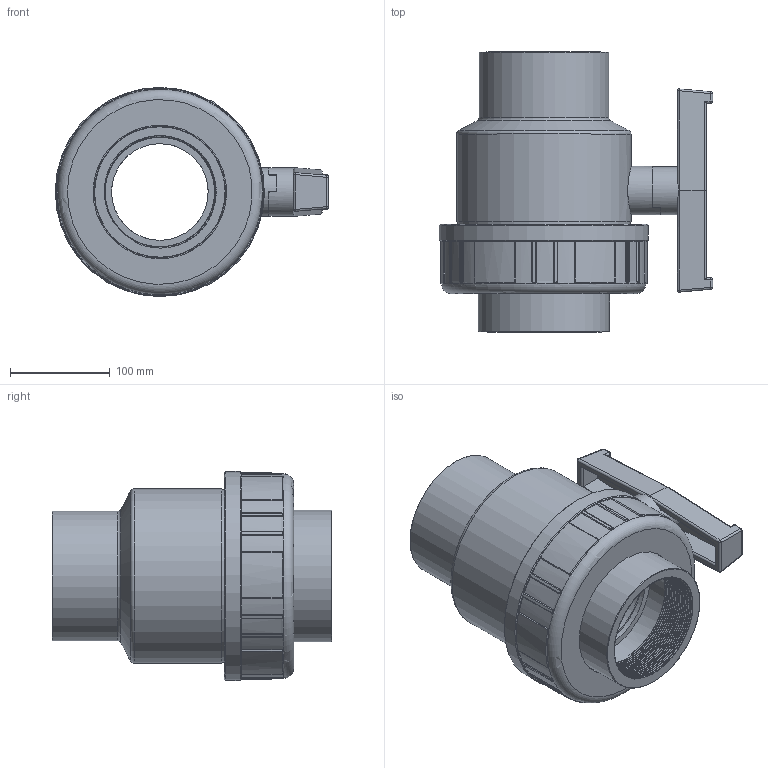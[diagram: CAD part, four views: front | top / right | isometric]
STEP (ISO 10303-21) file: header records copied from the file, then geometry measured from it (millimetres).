
FILE_DESCRIPTION(/* description */ (''),/* implementation_level */ '2;1');
FILE_NAME(/* name */ 'C:\Users\POLYPIPE\Desktop\DATASET INVENTOR\LIBRERIA EFFAST\3D_VALVOLE\3D_VALVOLE A SFERA\3D_SV\3D_BERSVE\3D_BERSVE110L.stp',/* time_stamp */ '2018-01-24T15:16:54+01:00',/* author */ ('POLYPIPE'),/* organization */ (''),/* preprocessor_version */ 'ST-DEVELOPER v16.1',/* originating_system */ 'Autodesk Inventor 2016',/* authorisation */ '');
FILE_SCHEMA (('CONFIG_CONTROL_DESIGN'));
Length unit declared in the file: centimetre
Products named in the file (1): 3D_BERSVE110L
Bounding box: 274.49 x 281 x 209.99 mm (x, y, z)
Volume: 3946242.7 mm3; surface area: 453176.2 mm2
Topology: 2 solids, 3 shells, 331 faces, 831 edges, 515 vertices
Faces by surface type: cylinder 120, bspline 95, plane 78, torus 19, sphere 16, cone 3
Full cylindrical faces by diameter (mm): 32 x1, 48.3 x1, 48.8 x1, 97 x2, 110.072 x2, 130 x1, 132 x1, 134.1 x1, 164 x1, 173 x1, 175 x1, 179.8 x1, 210 x1
Entity records: 44732 total; most frequent: CARTESIAN_POINT 37057, ORIENTED_EDGE 1598, DIRECTION 1372, EDGE_CURVE 799, AXIS2_PLACEMENT_3D 545, VERTEX_POINT 506, EDGE_LOOP 367, STYLED_ITEM 333
